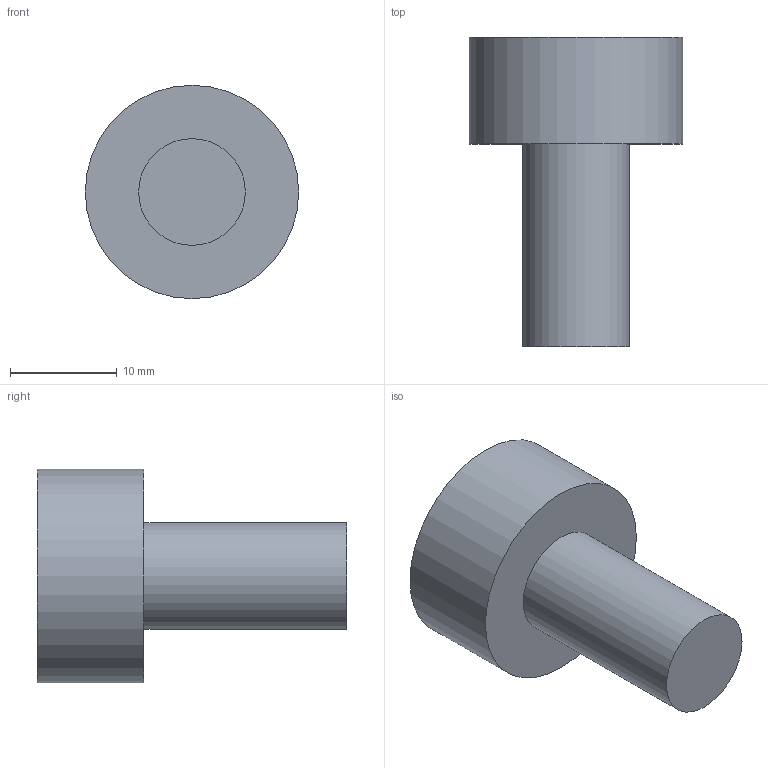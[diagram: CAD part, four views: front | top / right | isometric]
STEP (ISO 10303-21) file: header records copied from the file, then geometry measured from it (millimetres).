
FILE_DESCRIPTION(('Open CASCADE Model'),'2;1');
FILE_NAME('Open CASCADE Shape Model','2026-10-15T18:27:22',('Author'),( 'Open CASCADE'),'Open CASCADE STEP processor 7.9','Open CASCADE 7.9' ,'Unknown');
FILE_SCHEMA(('AUTOMOTIVE_DESIGN { 1 0 10303 214 1 1 1 1 }'));
Length unit declared in the file: millimetre
Products named in the file (1): Open CASCADE STEP translator 7.9 2
Bounding box: 20 x 29 x 20 mm (x, y, z)
Volume: 4633.8 mm3; surface area: 1853.5 mm2
Topology: 1 solids, 1 shells, 5 faces, 6 edges, 4 vertices
Faces by surface type: plane 3, cylinder 2
Full cylindrical faces by diameter (mm): 10 x1, 20 x1
Entity records: 195 total; most frequent: CARTESIAN_POINT 34, DIRECTION 33, ORIENTED_EDGE 12, PCURVE 12, DEFINITIONAL_REPRESENTATION 12, AXIS2_PLACEMENT_3D 10, LINE 10, VECTOR 10
